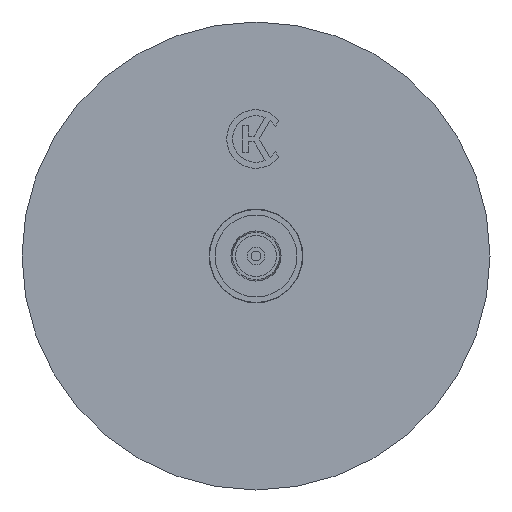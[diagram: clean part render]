
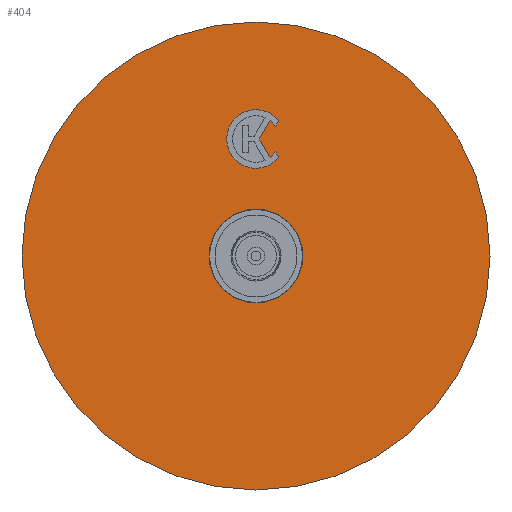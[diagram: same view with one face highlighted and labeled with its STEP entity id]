
A CAD part, left-side view. The second image highlights one B-rep face of the part: STEP entity #404.
In plain terms, the highlighted planar face has unit normal (-1, 0, 0).
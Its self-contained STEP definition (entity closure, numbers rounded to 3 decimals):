
#404=ADVANCED_FACE('',(#1740,#1742,#1744),#1746,.T.);
#1740=FACE_BOUND('',#1741,.T.);
#1741=EDGE_LOOP('',(#2924));
#1742=FACE_BOUND('',#1743,.T.);
#1743=EDGE_LOOP('',(#2925,#2926,#2927,#2928,#2929,#2930,#2931));
#1744=FACE_BOUND('',#1745,.T.);
#1745=EDGE_LOOP('',(#2932));
#1746=PLANE('',#1747);
#1747=AXIS2_PLACEMENT_3D('',#1748,#1749,#1750);
#1748=CARTESIAN_POINT('',(-30.15,0.,0.));
#1749=DIRECTION('',(-1.,0.,0.));
#1750=DIRECTION('',(0.,-1.,0.));
#2924=ORIENTED_EDGE('',*,*,#3432,.T.);
#2925=ORIENTED_EDGE('',*,*,#3433,.T.);
#2926=ORIENTED_EDGE('',*,*,#3434,.T.);
#2927=ORIENTED_EDGE('',*,*,#3435,.T.);
#2928=ORIENTED_EDGE('',*,*,#3436,.T.);
#2929=ORIENTED_EDGE('',*,*,#3437,.T.);
#2930=ORIENTED_EDGE('',*,*,#3438,.T.);
#2931=ORIENTED_EDGE('',*,*,#3439,.T.);
#2932=ORIENTED_EDGE('',*,*,#3440,.T.);
#3432=EDGE_CURVE('',#3722,#3722,#3723,.T.);
#3433=EDGE_CURVE('',#3724,#3725,#3726,.F.);
#3434=EDGE_CURVE('',#3725,#3727,#3728,.F.);
#3435=EDGE_CURVE('',#3727,#3729,#3730,.F.);
#3436=EDGE_CURVE('',#3729,#3731,#3732,.F.);
#3437=EDGE_CURVE('',#3731,#3733,#3734,.F.);
#3438=EDGE_CURVE('',#3733,#3735,#3736,.F.);
#3439=EDGE_CURVE('',#3735,#3724,#3737,.F.);
#3440=EDGE_CURVE('',#3738,#3738,#3739,.F.);
#3722=VERTEX_POINT('',#4261);
#3723=CIRCLE('',#4262,40.);
#3724=VERTEX_POINT('',#4266);
#3725=VERTEX_POINT('',#4267);
#3726=CIRCLE('',#4268,4.);
#3727=VERTEX_POINT('',#4272);
#3728=LINE('',#4273,#4274);
#3729=VERTEX_POINT('',#4276);
#3730=CIRCLE('',#4277,5.);
#3731=VERTEX_POINT('',#4281);
#3732=LINE('',#4282,#4283);
#3733=VERTEX_POINT('',#4285);
#3734=CIRCLE('',#4286,4.);
#3735=VERTEX_POINT('',#4290);
#3736=LINE('',#4291,#4292);
#3737=LINE('',#4294,#4295);
#3738=VERTEX_POINT('',#4297);
#3739=CIRCLE('',#4298,8.);
#4261=CARTESIAN_POINT('',(-30.15,-40.,0.));
#4262=AXIS2_PLACEMENT_3D('',#4263,#4264,#4265);
#4263=CARTESIAN_POINT('',(-30.15,0.,0.));
#4264=DIRECTION('',(-1.,0.,0.));
#4265=DIRECTION('',(0.,-1.,0.));
#4266=CARTESIAN_POINT('',(-30.15,-16.813,-2.417));
#4267=CARTESIAN_POINT('',(-30.15,-17.806,-3.345));
#4268=AXIS2_PLACEMENT_3D('',#4269,#4270,#4271);
#4269=CARTESIAN_POINT('',(-30.15,-20.,0.));
#4270=DIRECTION('',(1.,0.,0.));
#4271=DIRECTION('',(0.,0.548,-0.836));
#4272=CARTESIAN_POINT('',(-30.15,-16.86,-3.891));
#4273=CARTESIAN_POINT('',(-30.15,-16.86,-3.891));
#4274=VECTOR('',#4275,1.);
#4275=DIRECTION('',(0.,-0.866,0.5));
#4276=CARTESIAN_POINT('',(-30.15,-23.14,-3.891));
#4277=AXIS2_PLACEMENT_3D('',#4278,#4279,#4280);
#4278=CARTESIAN_POINT('',(-30.15,-20.,0.));
#4279=DIRECTION('',(-1.,0.,0.));
#4280=DIRECTION('',(0.,-0.628,-0.778));
#4281=CARTESIAN_POINT('',(-30.15,-22.194,-3.345));
#4282=CARTESIAN_POINT('',(-30.15,-22.194,-3.345));
#4283=VECTOR('',#4284,1.);
#4284=DIRECTION('',(0.,-0.866,-0.5));
#4285=CARTESIAN_POINT('',(-30.15,-23.187,-2.417));
#4286=AXIS2_PLACEMENT_3D('',#4287,#4288,#4289);
#4287=CARTESIAN_POINT('',(-30.15,-20.,0.));
#4288=DIRECTION('',(1.,0.,0.));
#4289=DIRECTION('',(0.,-0.797,-0.604));
#4290=CARTESIAN_POINT('',(-30.15,-20.,-0.577));
#4291=CARTESIAN_POINT('',(-30.15,-20.,-0.577));
#4292=VECTOR('',#4293,1.);
#4293=DIRECTION('',(0.,-0.866,-0.5));
#4294=CARTESIAN_POINT('',(-30.15,-16.813,-2.417));
#4295=VECTOR('',#4296,1.);
#4296=DIRECTION('',(0.,-0.866,0.5));
#4297=CARTESIAN_POINT('',(-30.15,0.,-8.));
#4298=AXIS2_PLACEMENT_3D('',#4299,#4300,#4301);
#4299=CARTESIAN_POINT('',(-30.15,0.,0.));
#4300=DIRECTION('',(-1.,0.,0.));
#4301=DIRECTION('',(0.,0.,-1.));
